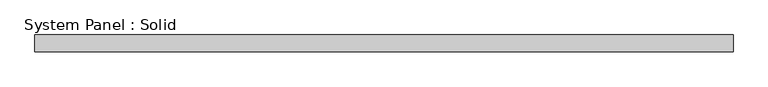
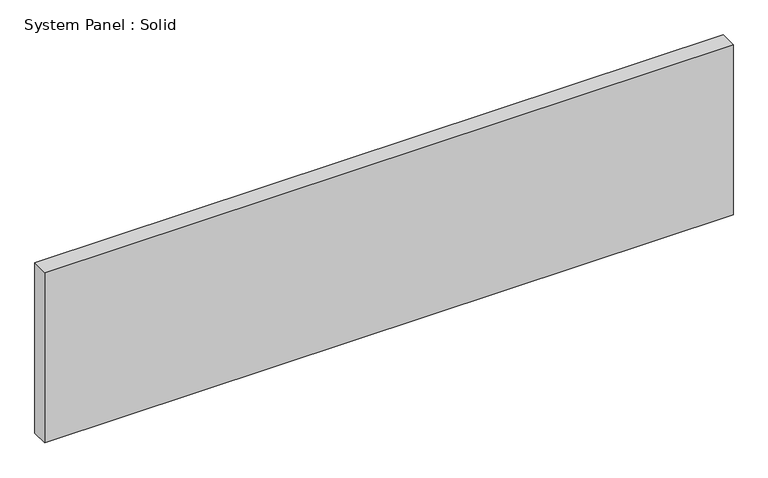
"""IFC4 building model written with IfcOpenShell, lengths in millimetres: plate geometry, System Panel : Solid."""

from ifc_helpers import new_model, si_unit, origin, origin_with_axes, place, context, project, spatial, polyline, outline, extrude, source, transform, mapped, element, save


def system_panel_solid_0ed6c75d(model_context):
    return source(origin(), model_context, "Body", "SweptSolid", [
        extrude(outline(polyline([(1297.78125, -19.05), (-1297.78125, -19.05), (-1297.78125, 44.45), (1297.78125, 44.45), (1297.78125, -19.05)])), origin_with_axes(), (0.0, 0.0, 1.0), 678.75),
    ])


if __name__ == "__main__":
    model = new_model("IFC4")
    model_context = context("Model", 3, world=origin())
    ifc_project = project(units=[si_unit("LENGTHUNIT", "METRE", prefix="MILLI")], contexts=[model_context])
    site = spatial("IfcSite", under=ifc_project)
    building = spatial("IfcBuilding", under=site)
    placement = place(None, origin())
    system_panel_solid_shape = system_panel_solid_0ed6c75d(model_context)
    element("IfcPlate", 1, ObjectType="System Panel : Solid", at=placement, inside=building, context=model_context, shape_type="MappedRepresentation", body=[
        mapped(system_panel_solid_shape, transform((0.0, 0.0, 0.0), x_axis=(1.0, 0.0, 0.0), y_axis=(0.0, 1.0, 0.0), z_axis=(0.0, 0.0, 1.0))),
    ])
    save(model, "model.ifc")
